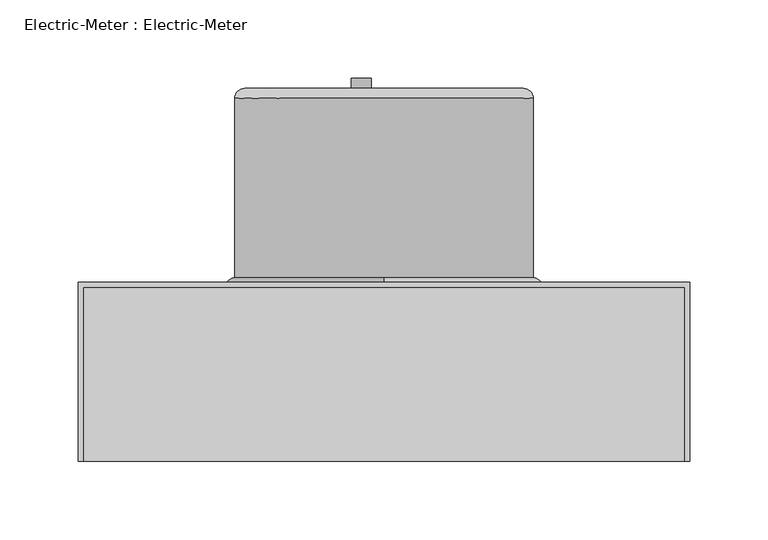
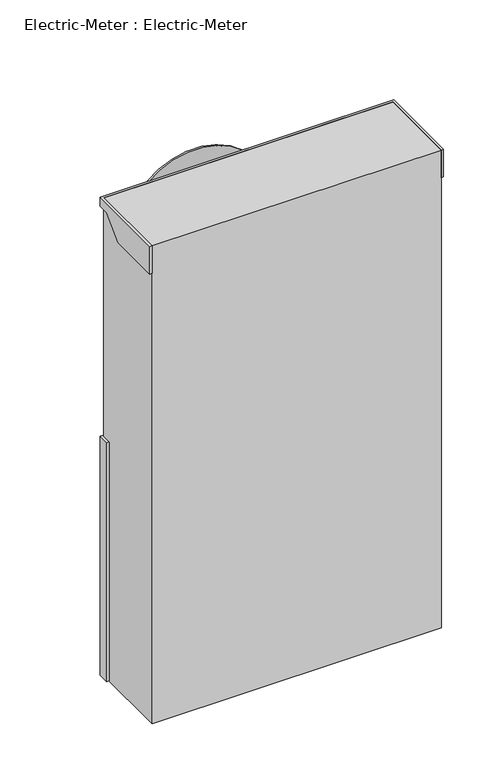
"""IFC4 building model written with IfcOpenShell, lengths in millimetres: proxy geometry, Electric-Meter : Electric-Meter."""

from ifc_helpers import new_model, si_unit, point, frame, frame_2d, origin, place, context, project, spatial, polyline, circle_curve, ellipse_curve, trimmed, segment, composite_curve, outline, extrude, faceted_brep, source, transform, mapped, element, save
from ifc_brep_helpers import plane_surface, cylinder_surface, revolved_surface, advanced_brep


def electric_meter_electric_meter_76531b19(model_context):
    return source(origin(), model_context, "Body", "SolidModel", [
        extrude(outline(composite_curve([segment(trimmed(circle_curve(frame_2d((1721.9414062, 0.0)), 82.55), [point((1721.9414062, 82.55))], [point((1721.9414062, -82.55))], False, "CARTESIAN"), True, "CONTINUOUS"), segment(trimmed(circle_curve(frame_2d((1721.9414062, 0.0)), 82.55), [point((1721.9414062, -82.55))], [point((1721.9414062, 82.55))], False, "CARTESIAN"), True, "CONTINUOUS")], self_intersect=False)), frame((0.0, 65.0875, 0.0), z_axis=(0.0, 1.0, 0.0), x_axis=(0.0, 0.0, 1.0)), (0.0, 0.0, 1.0), 113.443562),
        advanced_brep(
        [(95.25, 65.0875, 1721.9414062), (-95.25, 65.0875, 1721.9414062), (93.6625, 65.0875, 1721.9414062), (-93.6625, 65.0875, 1721.9414062), (-95.25, 185.7375, 1721.9414062), (95.25, 185.7375, 1721.9414062), (-93.6625, 185.7375, 1721.9414062), (93.6625, 185.7375, 1721.9414062), (88.9, 190.5, 1721.9414062), (-88.9, 190.5, 1721.9414062), (88.9, 192.0875, 1721.9414062), (-88.9, 192.0875, 1721.9414062), (-8.1033428, 192.0875, 1671.3092763), (-20.8033428, 192.0875, 1671.3092763), (-17.0667397, 192.0875, 1665.5219922), (-17.0667397, 192.0875, 1652.2592763), (-11.8399458, 192.0875, 1652.2592763), (-11.8399458, 192.0875, 1665.5219922), (-20.8033428, 198.4375, 1671.3092763), (-8.1033428, 198.4375, 1671.3092763), (-11.8399458, 198.4375, 1665.5219922), (-11.8399458, 198.4375, 1654.3418459), (-17.0667397, 198.4375, 1654.3418459), (-17.0667397, 198.4375, 1665.5219922), (-17.0667397, 196.3549304, 1652.2592763), (-17.0667397, 195.2625, 1660.5510914), (-17.0667397, 195.2625, 1656.6674611), (-11.8399458, 196.3549304, 1652.2592763), (-11.8399458, 195.2625, 1660.5510914), (-11.8399458, 195.2625, 1656.6674611)],
        [
            (0, 1, circle_curve(frame((0.0, 65.0875, 1721.9414062), z_axis=(0.0, -1.0, 0.0), x_axis=(-1.0, 0.0, 0.0)), 95.25)),
            (1, 0, circle_curve(frame((0.0, 65.0875, 1721.9414062), z_axis=(0.0, -1.0, 0.0), x_axis=(-1.0, 0.0, 0.0)), 95.25)),
            (2, 3, circle_curve(frame((0.0, 65.0875, 1721.9414062), z_axis=(0.0, 1.0, 0.0), x_axis=(-1.0, 0.0, 0.0)), 93.6625)),
            (3, 2, circle_curve(frame((0.0, 65.0875, 1721.9414062), z_axis=(0.0, 1.0, 0.0), x_axis=(-1.0, 0.0, 0.0)), 93.6625)),
            (1, 4),
            (4, 5, circle_curve(frame((0.0, 185.7375, 1721.9414062), z_axis=(0.0, -1.0, 0.0), x_axis=(-1.0, 0.0, 0.0)), 95.25)),
            (5, 0),
            (5, 4, circle_curve(frame((0.0, 185.7375, 1721.9414062), z_axis=(0.0, -1.0, 0.0), x_axis=(-1.0, 0.0, 0.0)), 95.25)),
            (3, 6),
            (6, 7, circle_curve(frame((0.0, 185.7375, 1721.9414062), z_axis=(0.0, 1.0, 0.0), x_axis=(-1.0, 0.0, 0.0)), 93.6625)),
            (7, 2),
            (7, 6, circle_curve(frame((0.0, 185.7375, 1721.9414062), z_axis=(0.0, 1.0, 0.0), x_axis=(-1.0, 0.0, 0.0)), 93.6625)),
            (8, 7, circle_curve(frame((88.9, 185.7375, 1721.9414062), z_axis=(0.0, 0.0, -1.0), x_axis=(-1.0, 0.0, 0.0)), 4.7625)),
            (6, 9, circle_curve(frame((-88.9, 185.7375, 1721.9414062), z_axis=(0.0, 0.0, -1.0), x_axis=(1.0, 2.118024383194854e-12, 0.0)), 4.7625)),
            (9, 8, circle_curve(frame((0.0, 190.5, 1721.9414062), z_axis=(-1.059012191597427e-12, 1.0, 0.0), x_axis=(1.0, 1.059012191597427e-12, 0.0)), 88.9)),
            (8, 9, circle_curve(frame((0.0, 190.5, 1721.9414062), z_axis=(-1.059012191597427e-12, 1.0, 0.0), x_axis=(1.0, 1.059012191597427e-12, 0.0)), 88.9)),
            (5, 10, circle_curve(frame((88.9, 185.7375, 1721.9414062), z_axis=(0.0, 0.0, 1.0), x_axis=(-1.0, 0.0, 0.0)), 6.35)),
            (10, 11, circle_curve(frame((0.0, 192.0875, 1721.9414062), z_axis=(1.059012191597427e-12, -1.0, 0.0), x_axis=(1.0, 1.059012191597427e-12, 0.0)), 88.9)),
            (11, 4, circle_curve(frame((-88.9, 185.7375, 1721.9414062), z_axis=(0.0, 0.0, 1.0), x_axis=(1.0, 2.118024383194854e-12, 0.0)), 6.35)),
            (11, 10, circle_curve(frame((0.0, 192.0875, 1721.9414062), z_axis=(1.059012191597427e-12, -1.0, 0.0), x_axis=(1.0, 1.059012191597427e-12, 0.0)), 88.9)),
            (12, 13, circle_curve(frame((-14.4533428, 192.0875, 1671.3092763), z_axis=(0.0, -1.0, 0.0), x_axis=(-1.0, 0.0, 0.0)), 6.35)),
            (13, 14, circle_curve(frame((-14.4533428, 192.0875, 1671.3092763), z_axis=(0.0, -1.0, 0.0), x_axis=(-1.0, 0.0, 0.0)), 6.35)),
            (14, 15),
            (15, 16),
            (16, 17),
            (17, 12, circle_curve(frame((-14.4533428, 192.0875, 1671.3092763), z_axis=(0.0, -1.0, 0.0), x_axis=(-1.0, 0.0, 0.0)), 6.35)),
            (18, 19, circle_curve(frame((-14.4533428, 198.4375, 1671.3092763), z_axis=(0.0, 1.0, 0.0), x_axis=(-1.0, 0.0, 0.0)), 6.35)),
            (19, 20, circle_curve(frame((-14.4533428, 198.4375, 1671.3092763), z_axis=(0.0, 1.0, 0.0), x_axis=(-1.0, 0.0, 0.0)), 6.35)),
            (20, 21),
            (21, 22),
            (22, 23),
            (23, 18, circle_curve(frame((-14.4533428, 198.4375, 1671.3092763), z_axis=(0.0, 1.0, 0.0), x_axis=(-1.0, 0.0, 0.0)), 6.35)),
            (19, 12),
            (17, 20),
            (13, 18),
            (23, 14),
            (22, 24, circle_curve(frame((-17.0667397, 196.3549304, 1654.3418459), z_axis=(-1.0, 0.0, 0.0), x_axis=(0.0, 0.0, -1.0)), 2.0825696)),
            (24, 15),
            (25, 26, circle_curve(frame((-17.0667397, 195.2625, 1658.6092763), z_axis=(1.0, 0.0, 0.0), x_axis=(0.0, 0.0, -1.0)), 1.9418151)),
            (26, 25, circle_curve(frame((-17.0667397, 195.2625, 1658.6092763), z_axis=(1.0, 0.0, 0.0), x_axis=(0.0, 0.0, -1.0)), 1.9418151)),
            (16, 27),
            (27, 21, circle_curve(frame((-11.8399458, 196.3549304, 1654.3418459), z_axis=(1.0, 0.0, 0.0), x_axis=(0.0, 0.0, -1.0)), 2.0825696)),
            (28, 29, circle_curve(frame((-11.8399458, 195.2625, 1658.6092763), z_axis=(-1.0, 0.0, 0.0), x_axis=(0.0, 0.0, -1.0)), 1.9418151)),
            (29, 28, circle_curve(frame((-11.8399458, 195.2625, 1658.6092763), z_axis=(-1.0, 0.0, 0.0), x_axis=(0.0, 0.0, -1.0)), 1.9418151)),
            (27, 24),
            (25, 28),
            (29, 26),
        ],
        [
            plane_surface(frame((-95.25, 65.0875, 1721.9414062), z_axis=(0.0, -1.0, 0.0), x_axis=(0.0, 0.0, -1.0))),
            cylinder_surface(frame((0.0, 65.0875, 1721.9414062), z_axis=(0.0, 1.0, 0.0), x_axis=(-1.0, 0.0, 0.0)), 95.25),
            revolved_surface(polyline([(-93.6625, 65.0875, 1721.9414062), (-93.6625, 185.7375, 1721.9414062)]), (0.0, 65.0875, 1721.9414062), (0.0, -1.0, 0.0)),
            revolved_surface(trimmed(ellipse_curve(frame((88.9, 185.7375, 1721.9414062), z_axis=(0.0, 0.0, 1.0), x_axis=(-1.0, 0.0, 0.0)), 4.7625, 4.7625), [point((93.6625, 185.7375, 1721.9414062))], [point((88.9, 190.5, 1721.9414062))], True, "CARTESIAN"), (0.0, 185.7375, 1721.9414062), (1.059012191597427e-12, -1.0, 0.0)),
            revolved_surface(trimmed(ellipse_curve(frame((88.9, 185.7375, 1721.9414062), z_axis=(0.0, 0.0, -1.0), x_axis=(-1.0, 0.0, 0.0)), 6.35, 6.35), [point((88.9, 192.0875, 1721.9414062))], [point((95.25, 185.7375, 1721.9414062))], True, "CARTESIAN"), (0.0, 185.7375, 1721.9414062), (1.059012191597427e-12, -1.0, 0.0)),
            plane_surface(frame((88.9, 192.0875, 1721.9414062), z_axis=(0.0, 1.0, 0.0), x_axis=(0.0, 0.0, -1.0))),
            plane_surface(frame((88.9, 190.5, 1721.9414062), z_axis=(0.0, -1.0, 0.0), x_axis=(0.0, 0.0, 1.0))),
            plane_surface(frame((-20.8033428, 198.4375, 1671.3092763), z_axis=(0.0, 1.0, 0.0), x_axis=(0.0, 0.0, 1.0))),
            cylinder_surface(frame((-14.4533428, 192.0875, 1671.3092763), z_axis=(0.0, 1.0, 0.0), x_axis=(-1.0, 0.0, 0.0)), 6.35),
            plane_surface(frame((-17.0667397, 198.4375, 1666.8343807), z_axis=(-1.0, 0.0, 0.0), x_axis=(0.0, 1.0, 0.0))),
            plane_surface(frame((-11.8399458, 198.4375, 1666.8343807), z_axis=(1.0, 0.0, 0.0), x_axis=(0.0, -1.0, 0.0))),
            cylinder_surface(frame((-11.8399458, 196.3549304, 1654.3418459), z_axis=(-1.0, 0.0, 0.0), x_axis=(0.0, 0.0, -1.0)), 2.0825696),
            plane_surface(frame((-17.0667397, 196.3549304, 1652.2592763), z_axis=(0.0, 0.0, -1.0), x_axis=(1.0, 0.0, 0.0))),
            revolved_surface(polyline([(-11.8399458, 195.2625, 1656.6674612), (-17.0667397, 195.2625, 1656.6674612)]), (0.0, 195.2625, 1658.6092763), (1.0, 0.0, 0.0)),
        ],
        [
            (0, [[1, 2], [3, 4]]),
            (1, [[-2, 5, 6, 7]]),
            (1, [[-1, -7, 8, -5]]),
            (2, [[-4, 9, 10, 11]]),
            (2, [[-3, -11, 12, -9]]),
            (3, [[13, -10, 14, 15]]),
            (3, [[-13, 16, -14, -12]]),
            (4, [[17, 18, 19, -8]]),
            (4, [[-17, -6, -19, 20]]),
            (5, [[-18, -20], [21, 22, 23, 24, 25, 26]]),
            (6, [[-15, -16]]),
            (7, [[27, 28, 29, 30, 31, 32]]),
            (8, [[33, -26, 34, -28]]),
            (8, [[35, -32, 36, -22]]),
            (8, [[-27, -35, -21, -33]]),
            (9, [[37, 38, -23, -36, -31], [39, 40]]),
            (10, [[41, 42, -29, -34, -25], [43, 44]]),
            (11, [[-37, -30, -42, 45]]),
            (12, [[-38, -45, -41, -24]]),
            (13, [[-39, 46, -44, 47]]),
            (13, [[-40, -47, -43, -46]]),
        ],
    ),
        advanced_brep(
        [(0.0, 65.0875, 1626.6914062), (0.0, 65.0875, 1817.1914062), (0.0, 71.4375, 1817.1914062), (0.0, 71.4375, 1626.6914062), (0.0, 65.0875, 1620.3414062), (0.0, 65.0875, 1823.5414062)],
        [
            (0, 1, circle_curve(frame((0.0, 65.0875, 1721.9414062), z_axis=(0.0, -1.0, 0.0), x_axis=(0.0, 0.0, 1.0)), 95.25)),
            (1, 2),
            (2, 3, circle_curve(frame((0.0, 71.4375, 1721.9414062), z_axis=(0.0, 1.0, 0.0), x_axis=(0.0, 0.0, 1.0)), 95.25)),
            (3, 0),
            (1, 0, circle_curve(frame((0.0, 65.0875, 1721.9414062), z_axis=(0.0, -1.0, 0.0), x_axis=(0.0, 0.0, 1.0)), 95.25)),
            (3, 2, circle_curve(frame((0.0, 71.4375, 1721.9414062), z_axis=(0.0, 1.0, 0.0), x_axis=(0.0, 0.0, 1.0)), 95.25)),
            (4, 5, circle_curve(frame((0.0, 65.0875, 1721.9414062), z_axis=(0.0, -1.0, 0.0), x_axis=(0.0, 0.0, 1.0)), 101.6)),
            (5, 1),
            (0, 4),
            (5, 4, circle_curve(frame((0.0, 65.0875, 1721.9414062), z_axis=(0.0, -1.0, 0.0), x_axis=(0.0, 0.0, 1.0)), 101.6)),
            (2, 5, circle_curve(frame((0.0, 65.0875, 1817.1914062), z_axis=(1.0, 0.0, 0.0), x_axis=(0.0, 0.0, -1.0)), 6.35)),
            (4, 3, circle_curve(frame((0.0, 65.0875, 1626.6914062), z_axis=(1.0, 0.0, 0.0), x_axis=(0.0, 0.0, 1.0)), 6.35)),
        ],
        [
            revolved_surface(polyline([(0.0, 71.4375, 1817.1914062), (0.0, 65.0875, 1817.1914062)]), (0.0, 65.0875, 1721.9414062), (0.0, 1.0, 0.0)),
            plane_surface(frame((0.0, 65.0875, 1721.9414062), z_axis=(0.0, -1.0, 0.0), x_axis=(0.0, 0.0, 1.0))),
            revolved_surface(trimmed(ellipse_curve(frame((0.0, 65.0875, 1817.1914062), z_axis=(-1.0, 0.0, 0.0), x_axis=(0.0, 0.0, -1.0)), 6.35, 6.35), [point((0.0, 65.0875, 1823.5414062))], [point((0.0, 71.4375, 1817.1914062))], True, "CARTESIAN"), (0.0, 65.0875, 1721.9414062), (0.0, 1.0, 0.0)),
        ],
        [
            (0, [[1, 2, 3, 4]]),
            (0, [[5, -4, 6, -2]]),
            (1, [[7, 8, -1, 9]]),
            (1, [[10, -9, -5, -8]]),
            (2, [[-3, 11, -7, 12]]),
            (2, [[-6, -12, -10, -11]]),
        ],
    ),
        extrude(outline(polyline([(-195.0640625, 53.1426351), (-195.0640625, 68.2625), (195.0640625, 68.2625), (195.0640625, 53.1426351), (191.8890625, 53.1426351), (191.8890625, 65.0875), (-191.8890625, 65.0875), (-191.8890625, 53.1426351), (-195.0640625, 53.1426351)])), frame((0.0, 0.0, 1219.2), z_axis=(0.0, 0.0, 1.0), x_axis=(1.0, 0.0, 0.0)), (0.0, 0.0, 1.0), 335.1609375),
        faceted_brep([(191.8890625, 53.1426351, 1876.821875), (191.8890625, 26.9875, 1850.6667399), (191.8890625, -46.0375, 1850.6667399), (191.8890625, -46.0375, 1889.521875), (191.8890625, 65.0875, 1889.521875), (191.8890625, 65.0875, 1876.821875), (195.0640625, 53.1426351, 1876.821875), (195.0640625, 68.2625, 1876.821875), (195.0640625, 68.2625, 1889.521875), (195.0640625, -46.0375, 1889.521875), (195.0640625, -46.0375, 1850.6667399), (195.0640625, 26.9875, 1850.6667399), (-191.8890625, 65.0875, 1876.821875), (-191.8890625, 53.1426351, 1876.821875), (-195.0640625, 53.1426351, 1876.821875), (-195.0640625, 68.2625, 1876.821875), (-195.0640625, 68.2625, 1889.521875), (-195.0640625, -46.0375, 1889.521875), (-191.8890625, -46.0375, 1889.521875), (-191.8890625, 65.0875, 1889.521875), (-191.8890625, -46.0375, 1850.6667399), (-191.8890625, 26.9875, 1850.6667399), (-195.0640625, 26.9875, 1850.6667399), (-195.0640625, -46.0375, 1850.6667399)], [[[0, 1, 2, 3, 4, 5]], [[6, 7, 8, 9, 10, 11]], [[7, 6, 0, 5, 12, 13, 14, 15]], [[9, 8, 16, 17, 18, 19, 4, 3]], [[3, 2, 10, 9]], [[2, 1, 11, 10]], [[1, 0, 6, 11]], [[16, 8, 7, 15]], [[4, 19, 12, 5]], [[18, 20, 21, 13, 12, 19]], [[14, 22, 23, 17, 16, 15]], [[20, 18, 17, 23]], [[21, 20, 23, 22]], [[13, 21, 22, 14]]]),
        extrude(outline(polyline([(74.6125, 1308.1), (80.9625, 1301.75), (80.9625, 1289.05), (74.6125, 1282.7), (68.2625, 1282.7), (68.2625, 1308.1), (74.6125, 1308.1)]), holes=[composite_curve([segment(trimmed(circle_curve(frame_2d((74.6125, 1295.4)), 3.1560846), [point((71.4564154, 1295.4))], [point((77.7685846, 1295.4))], True, "CARTESIAN"), True, "CONTINUOUS"), segment(trimmed(circle_curve(frame_2d((74.6125, 1295.4)), 3.1560846), [point((77.7685846, 1295.4))], [point((71.4564154, 1295.4))], True, "CARTESIAN"), True, "CONTINUOUS")], self_intersect=False)]), frame((-1.5875, 0.0, 0.0), z_axis=(1.0, 0.0, 0.0), x_axis=(0.0, 1.0, 0.0)), (0.0, 0.0, 1.0), 3.175),
        extrude(outline(polyline([(191.8890625, -46.0375), (-191.8890625, -46.0375), (-191.8890625, 65.0875), (191.8890625, 65.0875), (191.8890625, -46.0375)])), frame((0.0, 0.0, 1219.2), z_axis=(0.0, 0.0, 1.0), x_axis=(1.0, 0.0, 0.0)), (0.0, 0.0, 1.0), 670.321875),
    ])


if __name__ == "__main__":
    model = new_model("IFC4")
    model_context = context("Model", 3, world=origin())
    ifc_project = project(units=[si_unit("LENGTHUNIT", "METRE", prefix="MILLI")], contexts=[model_context])
    site = spatial("IfcSite", under=ifc_project)
    building = spatial("IfcBuilding", under=site)
    placement = place(None, origin())
    electric_meter_electric_meter_shape = electric_meter_electric_meter_76531b19(model_context)
    element("IfcBuildingElementProxy", 1, Name="Electric-Meter : Electric-Meter", ObjectType="Electric-Meter : Electric-Meter", at=placement, inside=building, context=model_context, shape_type="MappedRepresentation", body=[
        mapped(electric_meter_electric_meter_shape, transform((0.0, 0.0, 0.0), x_axis=(1.0, 0.0, 0.0), y_axis=(0.0, 1.0, 0.0), z_axis=(0.0, 0.0, 1.0))),
    ])
    save(model, "model.ifc")
